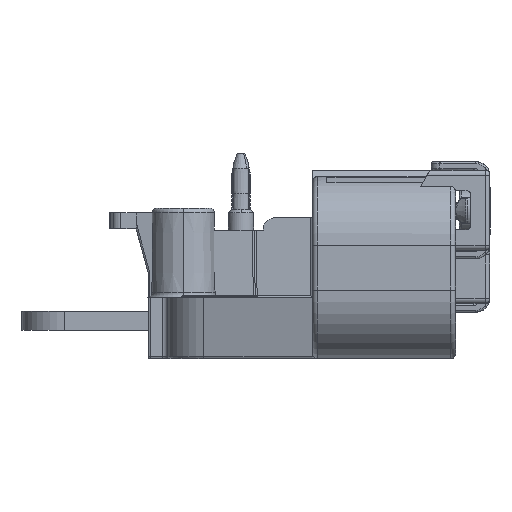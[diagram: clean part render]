
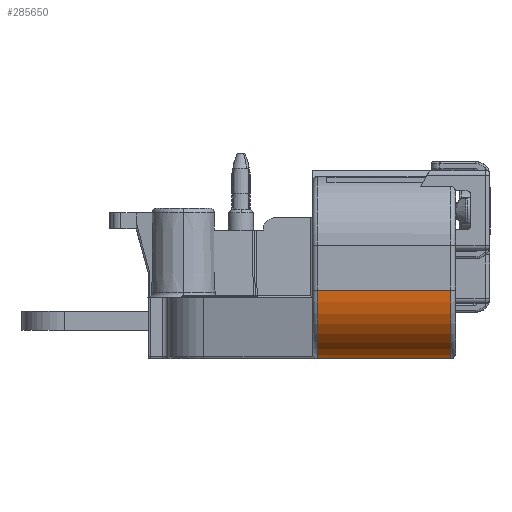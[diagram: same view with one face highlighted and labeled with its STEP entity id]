
A CAD part, left-side view. The second image highlights one B-rep face of the part: STEP entity #285650.
In plain terms, the highlighted cylindrical face has radius 7.2 mm (diameter 14.4 mm), a partial arc.
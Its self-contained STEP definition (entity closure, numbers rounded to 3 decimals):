
#186530=CARTESIAN_POINT('',(-32.802,13.5,7.7));
#186540=VERTEX_POINT('',#186530);
#215000=CARTESIAN_POINT('',(-32.802,-0.5,
7.7));
#215010=DIRECTION('',(0.,-1.,0.));
#215020=VECTOR('',#215010,1.);
#215030=LINE('',#215000,#215020);
#215040=CARTESIAN_POINT('',(-32.802,-0.5,
7.7));
#215050=VERTEX_POINT('',#215040);
#215060=EDGE_CURVE('',#186540,#215050,#215030,.T.);
#252860=CARTESIAN_POINT('',(-40.002,-0.5,
0.5));
#252870=VERTEX_POINT('',#252860);
#275590=CARTESIAN_POINT('',(-40.002,-0.5,
7.7));
#275600=DIRECTION('',(0.,-1.,0.));
#275610=DIRECTION('',(1.,0.,0.));
#275620=AXIS2_PLACEMENT_3D('',#275590,#275600,#275610);
#275630=CIRCLE('',#275620,7.2);
#275640=EDGE_CURVE('',#252870,#215050,#275630,.T.);
#285410=CARTESIAN_POINT('',(-40.002,-0.5,
7.7));
#285420=DIRECTION('',(0.,-1.,0.));
#285430=DIRECTION('',(1.,0.,0.));
#285440=AXIS2_PLACEMENT_3D('',#285410,#285420,#285430);
#285450=CYLINDRICAL_SURFACE('',#285440,7.2);
#285460=CARTESIAN_POINT('',(-40.002,-0.5,
0.5));
#285470=DIRECTION('',(0.,-1.,0.));
#285480=VECTOR('',#285470,1.);
#285490=LINE('',#285460,#285480);
#285500=CARTESIAN_POINT('',(-40.002,13.5,
0.5));
#285510=VERTEX_POINT('',#285500);
#285520=EDGE_CURVE('',#285510,#252870,#285490,.T.);
#285530=ORIENTED_EDGE('',*,*,#285520,.F.);
#285540=ORIENTED_EDGE('',*,*,#275640,.F.);
#285550=ORIENTED_EDGE('',*,*,#215060,.T.);
#285560=CARTESIAN_POINT('',(-40.002,13.5,7.7));
#285570=DIRECTION('',(0.,-1.,0.));
#285580=DIRECTION('',(1.,0.,0.));
#285590=AXIS2_PLACEMENT_3D('',#285560,#285570,#285580);
#285600=CIRCLE('',#285590,7.2);
#285610=EDGE_CURVE('',#285510,#186540,#285600,.T.);
#285620=ORIENTED_EDGE('',*,*,#285610,.T.);
#285630=EDGE_LOOP('',(#285620,#285550,#285540,#285530));
#285640=FACE_OUTER_BOUND('',#285630,.T.);
#285650=ADVANCED_FACE('',(#285640),#285450,.T.);
